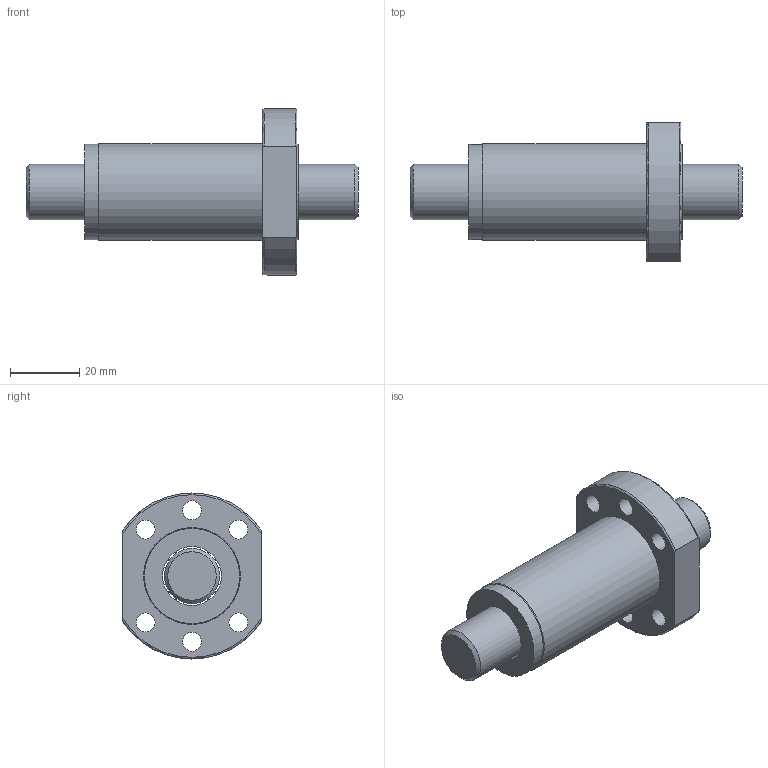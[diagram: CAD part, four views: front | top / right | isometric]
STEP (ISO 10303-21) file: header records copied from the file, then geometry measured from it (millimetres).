
FILE_DESCRIPTION(/* description */ (''),/* implementation_level */ '2;1');
FILE_NAME(/* name */ 'SFS1616-2.8',/* time_stamp */ '2007-10-26T10:34:39+08:00',/* author */ (''),/* organization */ (''),/* preprocessor_version */ 'ST-DEVELOPER v9',/* originating_system */ 'UGS - NX 3.0',/* authorisation */ '');
FILE_SCHEMA (('CONFIG_CONTROL_DESIGN'));
Length unit declared in the file: millimetre
Products named in the file (1): jaso37B0hu6d
Bounding box: 96 x 40 x 48 mm (x, y, z)
Volume: 52173.9 mm3; surface area: 20117.4 mm2
Topology: 4 solids, 4 shells, 35 faces, 78 edges, 53 vertices
Faces by surface type: cylinder 16, plane 12, torus 5, cone 2
Full cylindrical faces by diameter (mm): 5.5 x6, 16 x1, 17 x3, 27.5 x3, 28 x1
Entity records: 1106 total; most frequent: CARTESIAN_POINT 288, DIRECTION 158, ORIENTED_EDGE 110, AXIS2_PLACEMENT_3D 75, EDGE_LOOP 72, EDGE_CURVE 55, FACE_BOUND 52, VERTEX_POINT 47
